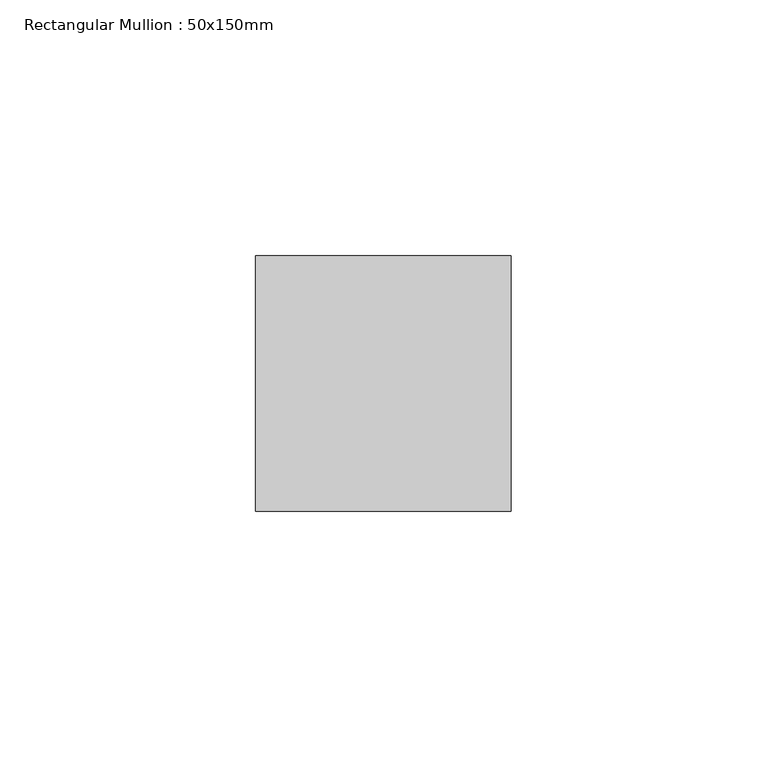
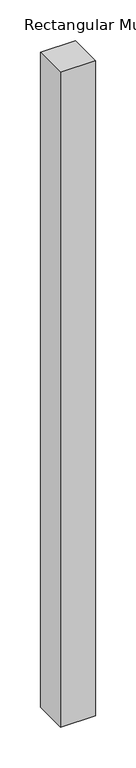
"""IFC4 building model written with IfcOpenShell, lengths in millimetres: member geometry, Rectangular Mullion : 50x150mm."""

from ifc_helpers import new_model, si_unit, frame, origin, place, context, project, spatial, polyline, outline, extrude, source, transform, mapped, element, save


def rectangular_mullion_50x150mm_d610cb71(model_context):
    return source(origin(), model_context, "Body", "SweptSolid", [
        extrude(outline(polyline([(0.0, 25.0), (0.0, -25.0), (-50.0, -25.0), (-50.0, 25.0), (0.0, 25.0)])), frame((0.0, 0.0, -986.6627977), z_axis=(0.0, 0.0, 1.0), x_axis=(1.0, 0.0, 0.0)), (0.0, 0.0, 1.0), 986.6627977),
    ])


if __name__ == "__main__":
    model = new_model("IFC4")
    model_context = context("Model", 3, world=origin())
    ifc_project = project(units=[si_unit("LENGTHUNIT", "METRE", prefix="MILLI")], contexts=[model_context])
    site = spatial("IfcSite", under=ifc_project)
    building = spatial("IfcBuilding", under=site)
    placement = place(None, origin())
    rectangular_mullion_50x150mm_shape = rectangular_mullion_50x150mm_d610cb71(model_context)
    element("IfcMember", 1, ObjectType="Rectangular Mullion : 50x150mm", at=placement, inside=building, context=model_context, shape_type="MappedRepresentation", body=[
        mapped(rectangular_mullion_50x150mm_shape, transform((0.0, 0.0, 0.0), x_axis=(1.0, 0.0, 0.0), y_axis=(0.0, 1.0, 0.0), z_axis=(0.0, 0.0, 1.0))),
    ])
    save(model, "model.ifc")
